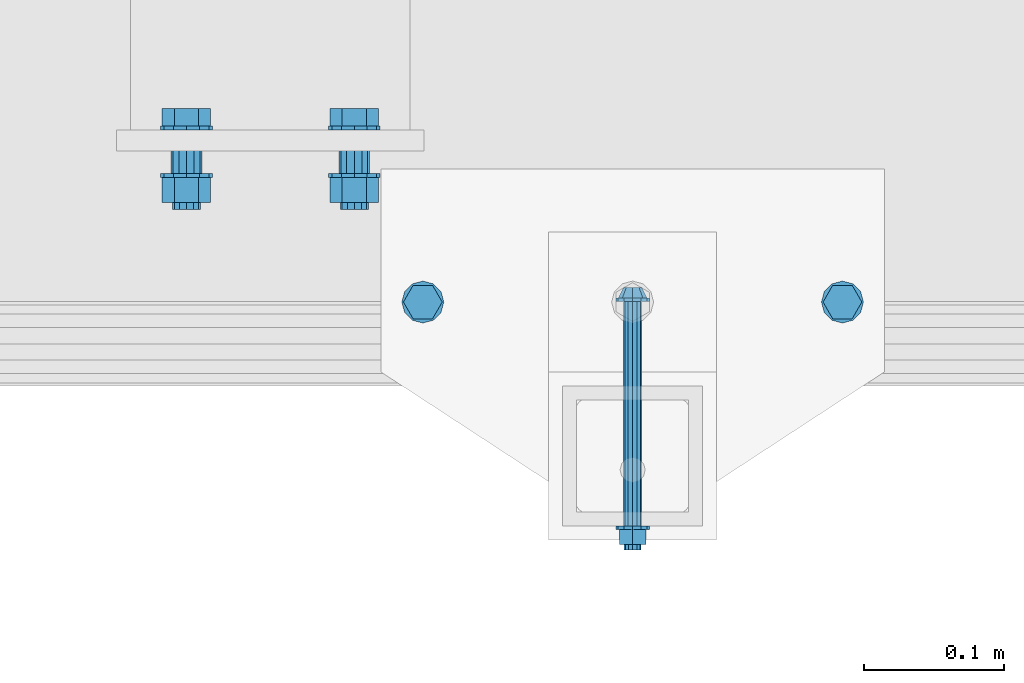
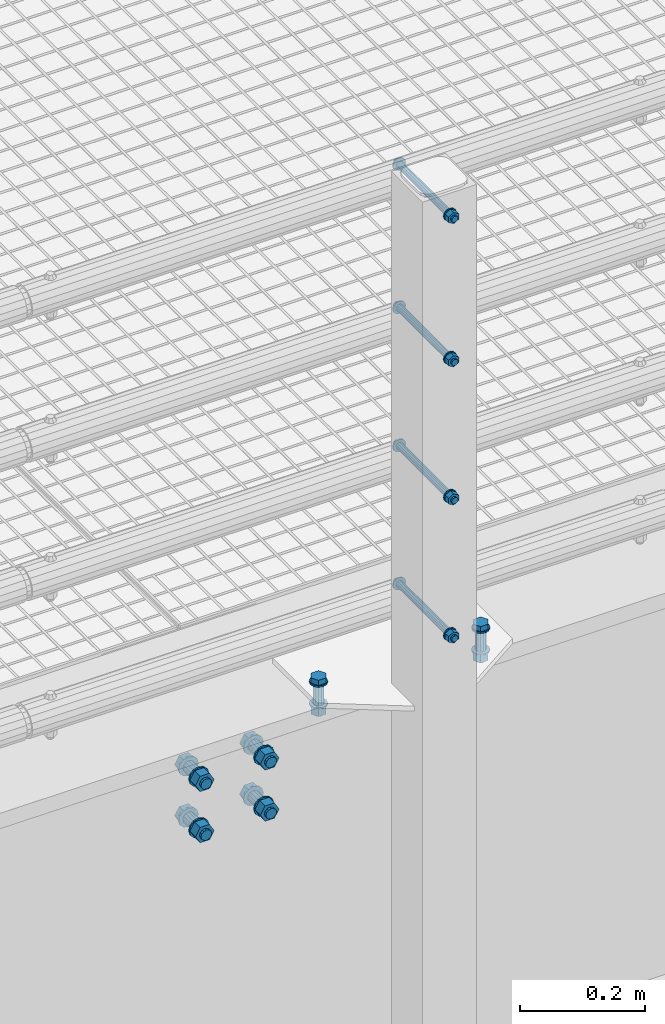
# One storey, part 25 of 1530: 6 mechanical fasteners.
"""IFC2X3 building model written with IfcOpenShell, lengths in millimetres."""

from ifc_helpers import new_model, si_unit, frame, origin_with_axes, place, context, subcontext, project, spatial, faceted_brep, source, transform, mapped, material, type_object, element, save


model = new_model("IFC2X3")

# Units and contexts
model_context = context("Model", 3, precision=1e-05, world=origin_with_axes())
body_context = subcontext(model_context, "Body", "Model", "MODEL_VIEW")
ifc_project = project(units=[si_unit("LENGTHUNIT", "METRE", prefix="MILLI"), si_unit("AREAUNIT", "SQUARE_METRE"), si_unit("VOLUMEUNIT", "CUBIC_METRE"), si_unit("MASSUNIT", "GRAM", prefix="KILO"), si_unit("TIMEUNIT", "SECOND"), si_unit("PLANEANGLEUNIT", "RADIAN"), si_unit("SOLIDANGLEUNIT", "STERADIAN"), si_unit("THERMODYNAMICTEMPERATUREUNIT", "DEGREE_CELSIUS"), si_unit("LUMINOUSINTENSITYUNIT", "LUMEN")], contexts=[model_context])

# Site, building, storey
site_placement = place(None, origin_with_axes())
site = spatial("IfcSite", under=ifc_project, at=site_placement, Name="Brattvåg", CompositionType="ELEMENT")
building_placement = place(site_placement, origin_with_axes())
building = spatial("IfcBuilding", under=site, at=building_placement, Name="Undefined", CompositionType="ELEMENT")
storey_placement = place(building_placement, origin_with_axes())
storey = spatial("IfcBuildingStorey", under=building, at=storey_placement, Name="Undefined", CompositionType="ELEMENT", Elevation=0.0)

# Mechanical fasteners
ifc_material = material(Name="8")
mechanical_fastener_type = type_object("IfcMechanicalFastenerType", Name="Bolt assembly")
shared_shape_1 = source(origin_with_axes(), body_context, "Body", "Brep", [
    faceted_brep([(6.49435320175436, -9.99984019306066, 0.0), (4.59220118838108, -9.99984019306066, 4.59220118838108), (3.97664443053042e-16, -9.99984019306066, 6.49435320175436), (-4.59220118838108, -9.99984019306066, 4.59220118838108), (-6.49435320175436, -9.99984019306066, 7.95328886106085e-16), (-4.59220118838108, -9.99984019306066, -4.59220118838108), (-1.19299332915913e-15, -9.99984019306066, -6.49435320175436), (4.59220118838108, -9.99984019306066, -4.59220118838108), (7.34846922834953, -2.49984019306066, -7.34846922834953), (-1.90903542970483e-15, -2.49984019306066, -10.3923048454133), (-7.34846922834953, -2.49984019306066, -7.34846922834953), (-10.3923048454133, -2.49984019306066, 1.27269028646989e-15), (-7.34846922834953, -2.49984019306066, 7.34846922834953), (6.36345143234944e-16, -2.49984019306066, 10.3923048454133), (7.34846922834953, -2.49984019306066, 7.34846922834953), (10.3923048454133, -2.49984019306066, 0.0), (6.0, -2.49984019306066, 0.0), (5.19615242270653, -2.49984019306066, 3.00000000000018), (2.99999999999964, -2.49984019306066, 5.19615242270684), (-6.21801588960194e-13, -2.49984019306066, 6.0), (-3.00000000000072, -2.49984019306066, 5.19615242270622), (-5.19615242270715, -2.49984019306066, 2.9999999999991), (-6.0, -2.49984019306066, -1.24360317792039e-12), (-5.19615242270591, -2.49984019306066, -3.00000000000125), (-2.99999999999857, -2.49984019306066, -5.19615242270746), (1.85874342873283e-12, -2.49984019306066, -6.0), (3.00000000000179, -2.49984019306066, -5.1961524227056), (5.19615242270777, -2.49984019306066, -2.99999999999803), (5.19615242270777, 177.500159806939, -2.99999999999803), (3.00000000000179, 177.500159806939, -5.1961524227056), (1.85874342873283e-12, 177.500159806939, -6.0), (-2.99999999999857, 177.500159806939, -5.19615242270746), (-5.19615242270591, 177.500159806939, -3.00000000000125), (-6.0, 177.500159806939, -1.24360317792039e-12), (-5.19615242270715, 177.500159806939, 2.9999999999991), (-3.00000000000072, 177.500159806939, 5.19615242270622), (-6.21801588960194e-13, 177.500159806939, 6.0), (2.99999999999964, 177.500159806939, 5.19615242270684), (5.19615242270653, 177.500159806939, 3.00000000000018), (6.0, 177.500159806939, 0.0), (12.0, -2.49984019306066, 0.0), (10.3923048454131, -2.49984019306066, 6.00000000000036), (5.99999999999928, -2.49984019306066, 10.3923048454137), (-1.24360317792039e-12, -2.49984019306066, 12.0), (-6.00000000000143, -2.49984019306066, 10.3923048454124), (-10.3923048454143, -2.49984019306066, 5.99999999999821), (-12.0, -2.49984019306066, -2.48720635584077e-12), (-10.3923048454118, -2.49984019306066, -6.00000000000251), (-5.99999999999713, -2.49984019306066, -10.3923048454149), (3.71748685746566e-12, -2.49984019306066, -12.0), (6.00000000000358, -2.49984019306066, -10.3923048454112), (10.3923048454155, -2.49984019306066, -5.99999999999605), (10.3923048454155, 0.000159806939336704, -5.99999999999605), (6.00000000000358, 0.000159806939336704, -10.3923048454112), (3.71748685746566e-12, 0.000159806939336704, -12.0), (-5.99999999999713, 0.000159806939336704, -10.3923048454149), (-10.3923048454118, 0.000159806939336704, -6.00000000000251), (-12.0, 0.000159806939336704, -2.48720635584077e-12), (-10.3923048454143, 0.000159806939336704, 5.99999999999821), (-6.00000000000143, 0.000159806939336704, 10.3923048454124), (-1.24360317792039e-12, 0.000159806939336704, 12.0), (5.99999999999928, 0.000159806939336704, 10.3923048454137), (10.3923048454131, 0.000159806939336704, 6.00000000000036), (12.0, 0.000159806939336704, 0.0), (12.0, 160.299998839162, 0.0), (10.3923048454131, 160.299998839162, 6.00000000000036), (5.99999999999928, 160.299998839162, 10.3923048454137), (-1.24360317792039e-12, 160.299998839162, 12.0), (-6.00000000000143, 160.299998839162, 10.3923048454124), (-10.3923048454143, 160.299998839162, 5.99999999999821), (-12.0, 160.299998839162, -2.48720635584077e-12), (-10.3923048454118, 160.299998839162, -6.00000000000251), (-5.99999999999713, 160.299998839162, -10.3923048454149), (3.71748685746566e-12, 160.299998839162, -12.0), (6.00000000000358, 160.299998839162, -10.3923048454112), (10.3923048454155, 160.299998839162, -5.99999999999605), (10.3923048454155, 162.799998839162, -5.99999999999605), (6.00000000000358, 162.799998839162, -10.3923048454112), (3.71748685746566e-12, 162.799998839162, -12.0), (-5.99999999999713, 162.799998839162, -10.3923048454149), (-10.3923048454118, 162.799998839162, -6.00000000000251), (-12.0, 162.799998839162, -2.48720635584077e-12), (-10.3923048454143, 162.799998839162, 5.99999999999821), (-6.00000000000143, 162.799998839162, 10.3923048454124), (-1.24360317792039e-12, 162.799998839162, 12.0), (5.99999999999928, 162.799998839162, 10.3923048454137), (10.3923048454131, 162.799998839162, 6.00000000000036), (12.0, 162.799998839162, 0.0), (10.9696551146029, 162.799998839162, 0.0), (5.48482755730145, 162.799998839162, 9.5), (-5.48482755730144, 162.799998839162, 9.5), (-10.9696551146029, 162.799998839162, 1.34339530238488e-15), (-5.48482755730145, 162.799998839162, -9.5), (5.48482755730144, 162.799998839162, -9.5), (5.48482755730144, 173.599999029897, -9.5), (-5.48482755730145, 173.599999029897, -9.5), (-10.9696551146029, 173.599999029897, 1.34339530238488e-15), (-5.48482755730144, 173.599999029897, 9.5), (5.48482755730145, 173.599999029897, 9.5), (10.9696551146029, 173.599999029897, 0.0)], [[[0, 1, 2, 3, 4, 5, 6, 7]], [[8, 9, 10, 11, 12, 13, 14, 15]], [[0, 15, 14, 1]], [[1, 14, 13, 2]], [[2, 13, 12, 3]], [[3, 12, 11, 4]], [[4, 11, 10, 5]], [[5, 10, 9, 6]], [[6, 9, 8, 7]], [[7, 8, 15, 0]], [[16, 17, 18, 19, 20, 21, 22, 23, 24, 25, 26, 27]], [[28, 29, 30, 31, 32, 33, 34, 35, 36, 37, 38, 39]], [[16, 39, 38, 17]], [[17, 38, 37, 18]], [[18, 37, 36, 19]], [[19, 36, 35, 20]], [[20, 35, 34, 21]], [[21, 34, 33, 22]], [[22, 33, 32, 23]], [[23, 32, 31, 24]], [[24, 31, 30, 25]], [[25, 30, 29, 26]], [[26, 29, 28, 27]], [[27, 28, 39, 16]], [[40, 41, 42, 43, 44, 45, 46, 47, 48, 49, 50, 51]], [[52, 53, 54, 55, 56, 57, 58, 59, 60, 61, 62, 63]], [[40, 63, 62, 41]], [[41, 62, 61, 42]], [[42, 61, 60, 43]], [[43, 60, 59, 44]], [[44, 59, 58, 45]], [[45, 58, 57, 46]], [[46, 57, 56, 47]], [[47, 56, 55, 48]], [[48, 55, 54, 49]], [[49, 54, 53, 50]], [[50, 53, 52, 51]], [[51, 52, 63, 40]], [[64, 65, 66, 67, 68, 69, 70, 71, 72, 73, 74, 75]], [[76, 77, 78, 79, 80, 81, 82, 83, 84, 85, 86, 87]], [[64, 87, 86, 65]], [[65, 86, 85, 66]], [[66, 85, 84, 67]], [[67, 84, 83, 68]], [[68, 83, 82, 69]], [[69, 82, 81, 70]], [[70, 81, 80, 71]], [[71, 80, 79, 72]], [[72, 79, 78, 73]], [[73, 78, 77, 74]], [[74, 77, 76, 75]], [[75, 76, 87, 64]], [[88, 89, 90, 91, 92, 93]], [[94, 95, 96, 97, 98, 99]], [[88, 99, 98, 89]], [[89, 98, 97, 90]], [[90, 97, 96, 91]], [[91, 96, 95, 92]], [[92, 95, 94, 93]], [[93, 94, 99, 88]]]),
    faceted_brep([(6.5, 0.100159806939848, 0.0), (5.62916512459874, 0.100159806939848, 3.25000000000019), (3.24999999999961, 0.100159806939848, 5.62916512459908), (-6.7361838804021e-13, 0.100159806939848, 6.5), (-3.25000000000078, 0.100159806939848, 5.6291651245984), (-5.62916512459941, 0.100159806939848, 3.24999999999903), (-6.5, 0.100159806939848, -1.34723677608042e-12), (-5.62916512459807, 0.100159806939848, -3.25000000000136), (-3.24999999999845, 0.100159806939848, -5.62916512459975), (2.01363871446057e-12, 0.100159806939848, -6.5), (3.25000000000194, 0.100159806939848, -5.62916512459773), (5.62916512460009, 0.100159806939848, -3.24999999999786), (5.62916512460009, 60.4001552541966, -3.24999999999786), (3.25000000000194, 60.4001552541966, -5.62916512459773), (2.01363871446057e-12, 60.4001552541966, -6.5), (-3.24999999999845, 60.4001552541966, -5.62916512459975), (-5.62916512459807, 60.4001552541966, -3.25000000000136), (-6.5, 60.4001552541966, -1.34723677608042e-12), (-5.62916512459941, 60.4001552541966, 3.24999999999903), (-3.25000000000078, 60.4001552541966, 5.6291651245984), (-6.7361838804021e-13, 60.4001552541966, 6.5), (3.24999999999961, 60.4001552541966, 5.62916512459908), (5.62916512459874, 60.4001552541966, 3.25000000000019), (6.5, 60.4001552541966, 0.0), (6.5, 60.1999988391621, 0.0), (5.62916512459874, 60.1999988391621, 3.25000000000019), (3.24999999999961, 60.1999988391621, 5.62916512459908), (-6.7361838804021e-13, 60.1999988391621, 6.5), (-3.25000000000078, 60.1999988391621, 5.6291651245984), (-5.62916512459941, 60.1999988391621, 3.24999999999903), (-6.5, 60.1999988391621, -1.34723677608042e-12), (-5.62916512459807, 60.1999988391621, -3.25000000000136), (-3.24999999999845, 60.1999988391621, -5.62916512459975), (2.01363871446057e-12, 60.1999988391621, -6.5), (3.25000000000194, 60.1999988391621, -5.62916512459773), (5.62916512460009, 60.1999988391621, -3.24999999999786), (5.62916512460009, 160.299998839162, -3.24999999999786), (3.25000000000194, 160.299998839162, -5.62916512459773), (2.01363871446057e-12, 160.299998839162, -6.5), (-3.24999999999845, 160.299998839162, -5.62916512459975), (-5.62916512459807, 160.299998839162, -3.25000000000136), (-6.5, 160.299998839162, -1.34723677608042e-12), (-5.62916512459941, 160.299998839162, 3.24999999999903), (-3.25000000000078, 160.299998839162, 5.6291651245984), (-6.7361838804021e-13, 160.299998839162, 6.5), (3.24999999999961, 160.299998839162, 5.62916512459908), (5.62916512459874, 160.299998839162, 3.25000000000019), (6.5, 160.299998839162, 0.0)], [[[0, 1, 2, 3, 4, 5, 6, 7, 8, 9, 10, 11]], [[12, 13, 14, 15, 16, 17, 18, 19, 20, 21, 22, 23]], [[0, 23, 22, 1]], [[1, 22, 21, 2]], [[2, 21, 20, 3]], [[3, 20, 19, 4]], [[4, 19, 18, 5]], [[5, 18, 17, 6]], [[6, 17, 16, 7]], [[7, 16, 15, 8]], [[8, 15, 14, 9]], [[9, 14, 13, 10]], [[10, 13, 12, 11]], [[11, 12, 23, 0]], [[24, 25, 26, 27, 28, 29, 30, 31, 32, 33, 34, 35]], [[36, 37, 38, 39, 40, 41, 42, 43, 44, 45, 46, 47]], [[24, 47, 46, 25]], [[25, 46, 45, 26]], [[26, 45, 44, 27]], [[27, 44, 43, 28]], [[28, 43, 42, 29]], [[29, 42, 41, 30]], [[30, 41, 40, 31]], [[31, 40, 39, 32]], [[32, 39, 38, 33]], [[33, 38, 37, 34]], [[34, 37, 36, 35]], [[35, 36, 47, 24]]]),
])
for number, where, z_axis, x_axis, name in (
    (1, (14844.9999999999, -99.6997226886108, 149.550000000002), (-1.0, 1.99999855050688e-09, 0.0), (0.0, 0.0, -1.0), "Bolt assembly"),
    (2, (14844.9999999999, -99.6997226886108, 419.550000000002), (-1.0, 1.99999855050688e-09, 0.0), (0.0, 0.0, -1.0), "Bolt assembly"),
    (3, (14844.9999999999, -99.6997226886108, 689.550000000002), (-1.0, 1.99999855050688e-09, 0.0), (0.0, 0.0, -1.0), "Bolt assembly"),
    (4, (14844.9999999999, -99.6997226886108, 969.550000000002), (-1.0, 1.99999855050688e-09, 0.0), (0.0, 0.0, -1.0), "Bolt assembly"),
):
    element("IfcMechanicalFastener", number, at=place(storey_placement, frame(where, z_axis=z_axis, x_axis=x_axis)), inside=storey, type_object=mechanical_fastener_type, material=ifc_material, Name=name, NominalDiameter=12.0, NominalLength=180.0, context=body_context, shape_type="MappedRepresentation", body=[
        mapped(shared_shape_1, transform((0.0, 0.0, 0.0))),
    ])
shared_shape_2 = source(origin_with_axes(), body_context, "Body", "Brep", [
    faceted_brep([(13.856406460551, -13.0, 0.0), (6.92820323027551, -13.0, 12.0), (-6.92820323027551, -13.0, 12.0), (-13.856406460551, -13.0, 1.69692038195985e-15), (-6.92820323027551, -13.0, -12.0), (6.9282032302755, -13.0, -12.0), (6.9282032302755, -3.0, -12.0), (-6.92820323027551, -3.0, -12.0), (-13.856406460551, -3.0, 1.69692038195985e-15), (-6.92820323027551, -3.0, 12.0), (6.92820323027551, -3.0, 12.0), (13.856406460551, -3.0, 0.0), (8.0, -3.0, 0.0), (6.92820323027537, -3.0, 4.00000000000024), (3.99999999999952, -3.0, 6.92820323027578), (-8.29068785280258e-13, -3.0, 8.0), (-4.00000000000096, -3.0, 6.92820323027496), (-6.9282032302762, -3.0, 3.99999999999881), (-8.0, -3.0, -1.65813757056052e-12), (-6.92820323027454, -3.0, -4.00000000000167), (-3.99999999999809, -3.0, -6.92820323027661), (2.47832457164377e-12, -3.0, -8.0), (4.00000000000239, -3.0, -6.92820323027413), (6.92820323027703, -3.0, -3.99999999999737), (6.92820323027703, 62.0000000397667, -3.99999999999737), (4.00000000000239, 62.0000000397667, -6.92820323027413), (2.47832457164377e-12, 62.0000000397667, -8.0), (-3.99999999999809, 62.0000000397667, -6.92820323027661), (-6.92820323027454, 62.0000000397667, -4.00000000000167), (-8.0, 62.0000000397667, -1.65813757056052e-12), (-6.9282032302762, 62.0000000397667, 3.99999999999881), (-4.00000000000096, 62.0000000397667, 6.92820323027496), (-8.29068785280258e-13, 62.0000000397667, 8.0), (3.99999999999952, 62.0000000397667, 6.92820323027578), (6.92820323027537, 62.0000000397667, 4.00000000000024), (8.0, 62.0000000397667, 0.0), (15.0, -3.0, 0.0), (12.9903810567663, -3.0, 7.50000000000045), (7.4999999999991, -3.0, 12.9903810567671), (-1.55450397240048e-12, -3.0, 15.0), (-7.50000000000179, -3.0, 12.9903810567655), (-12.9903810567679, -3.0, 7.49999999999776), (-15.0, -3.0, -3.10900794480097e-12), (-12.9903810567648, -3.0, -7.50000000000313), (-7.49999999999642, -3.0, -12.9903810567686), (4.64685857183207e-12, -3.0, -15.0), (7.50000000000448, -3.0, -12.990381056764), (12.9903810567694, -3.0, -7.49999999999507), (12.9903810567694, 0.0, -7.49999999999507), (7.50000000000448, 0.0, -12.990381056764), (0.0, 0.0, -15.0), (-7.49999999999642, 0.0, -12.9903810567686), (-12.9903810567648, 0.0, -7.50000000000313), (-15.0, 0.0, -3.10900794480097e-12), (-12.9903810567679, 0.0, 7.49999999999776), (-7.50000000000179, 0.0, 12.9903810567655), (0.0, 0.0, 15.0), (7.4999999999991, 0.0, 12.9903810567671), (12.9903810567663, 0.0, 7.50000000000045), (15.0, 0.0, 0.0), (15.0, 39.9997390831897, 0.0), (12.9903810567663, 39.9997390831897, 7.50000000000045), (7.4999999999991, 39.9997390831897, 12.9903810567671), (-1.55450397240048e-12, 39.9997390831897, 15.0), (-7.50000000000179, 39.9997390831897, 12.9903810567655), (-12.9903810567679, 39.9997390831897, 7.49999999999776), (-15.0, 39.9997390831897, -3.10900794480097e-12), (-12.9903810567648, 39.9997390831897, -7.50000000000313), (-7.49999999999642, 39.9997390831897, -12.9903810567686), (4.64685857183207e-12, 39.9997390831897, -15.0), (7.50000000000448, 39.9997390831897, -12.990381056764), (12.9903810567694, 39.9997390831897, -7.49999999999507), (12.9903810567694, 42.9997390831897, -7.49999999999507), (7.50000000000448, 42.9997390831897, -12.990381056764), (4.64685857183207e-12, 42.9997390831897, -15.0), (-7.49999999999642, 42.9997390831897, -12.9903810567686), (-12.9903810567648, 42.9997390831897, -7.50000000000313), (-15.0, 42.9997390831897, -3.10900794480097e-12), (-12.9903810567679, 42.9997390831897, 7.49999999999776), (-7.50000000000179, 42.9997390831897, 12.9903810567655), (-1.55450397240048e-12, 42.9997390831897, 15.0), (7.4999999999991, 42.9997390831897, 12.9903810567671), (12.9903810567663, 42.9997390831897, 7.50000000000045), (15.0, 42.9997390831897, 0.0), (13.856406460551, 42.9997390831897, 0.0), (6.92820323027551, 42.9997390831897, 12.0), (-6.92820323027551, 42.9997390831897, 12.0), (-13.856406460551, 42.9997390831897, 1.69692038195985e-15), (-6.92820323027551, 42.9997390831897, -12.0), (6.9282032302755, 42.9997390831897, -12.0), (6.9282032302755, 57.7997392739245, -12.0), (-6.92820323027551, 57.7997392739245, -12.0), (-13.856406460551, 57.7997392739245, 1.69692038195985e-15), (-6.92820323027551, 57.7997392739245, 12.0), (6.92820323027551, 57.7997392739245, 12.0), (13.856406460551, 57.7997392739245, 0.0)], [[[0, 1, 2, 3, 4, 5]], [[6, 7, 8, 9, 10, 11]], [[0, 11, 10, 1]], [[1, 10, 9, 2]], [[2, 9, 8, 3]], [[3, 8, 7, 4]], [[4, 7, 6, 5]], [[5, 6, 11, 0]], [[12, 13, 14, 15, 16, 17, 18, 19, 20, 21, 22, 23]], [[24, 25, 26, 27, 28, 29, 30, 31, 32, 33, 34, 35]], [[12, 35, 34, 13]], [[13, 34, 33, 14]], [[14, 33, 32, 15]], [[15, 32, 31, 16]], [[16, 31, 30, 17]], [[17, 30, 29, 18]], [[18, 29, 28, 19]], [[19, 28, 27, 20]], [[20, 27, 26, 21]], [[21, 26, 25, 22]], [[22, 25, 24, 23]], [[23, 24, 35, 12]], [[36, 37, 38, 39, 40, 41, 42, 43, 44, 45, 46, 47]], [[48, 49, 50, 51, 52, 53, 54, 55, 56, 57, 58, 59]], [[36, 59, 58, 37]], [[37, 58, 57, 38]], [[38, 57, 56, 39]], [[39, 56, 55, 40]], [[40, 55, 54, 41]], [[41, 54, 53, 42]], [[42, 53, 52, 43]], [[43, 52, 51, 44]], [[44, 51, 50, 45]], [[45, 50, 49, 46]], [[46, 49, 48, 47]], [[47, 48, 59, 36]], [[60, 61, 62, 63, 64, 65, 66, 67, 68, 69, 70, 71]], [[72, 73, 74, 75, 76, 77, 78, 79, 80, 81, 82, 83]], [[60, 83, 82, 61]], [[61, 82, 81, 62]], [[62, 81, 80, 63]], [[63, 80, 79, 64]], [[64, 79, 78, 65]], [[65, 78, 77, 66]], [[66, 77, 76, 67]], [[67, 76, 75, 68]], [[68, 75, 74, 69]], [[69, 74, 73, 70]], [[70, 73, 72, 71]], [[71, 72, 83, 60]], [[84, 85, 86, 87, 88, 89]], [[90, 91, 92, 93, 94, 95]], [[84, 95, 94, 85]], [[85, 94, 93, 86]], [[86, 93, 92, 87]], [[87, 92, 91, 88]], [[88, 91, 90, 89]], [[89, 90, 95, 84]]]),
    faceted_brep([(9.0, 0.1, 0.0), (7.79422863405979, 0.1, 4.50000000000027), (4.49999999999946, 0.1, 7.79422863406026), (-9.3270238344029e-13, 0.1, 9.0), (-4.50000000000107, 0.1, 7.79422863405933), (-7.79422863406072, 0.1, 4.49999999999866), (-9.0, 0.1, -1.86540476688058e-12), (-7.79422863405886, 0.1, -4.50000000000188), (-4.49999999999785, 0.1, -7.79422863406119), (2.78811514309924e-12, 0.1, -9.0), (4.50000000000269, 0.1, -7.7942286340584), (7.79422863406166, 0.1, -4.49999999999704), (7.79422863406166, 10.1, -4.49999999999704), (4.50000000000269, 10.1, -7.7942286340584), (2.78811514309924e-12, 10.1, -9.0), (-4.49999999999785, 10.1, -7.79422863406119), (-7.79422863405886, 10.1, -4.50000000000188), (-9.0, 10.1, -1.86540476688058e-12), (-7.79422863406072, 10.1, 4.49999999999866), (-4.50000000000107, 10.1, 7.79422863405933), (-9.3270238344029e-13, 10.1, 9.0), (4.49999999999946, 10.1, 7.79422863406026), (7.79422863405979, 10.1, 4.50000000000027), (9.0, 10.1, 0.0), (9.0, 9.8997390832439, 0.0), (7.79422863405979, 9.8997390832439, 4.50000000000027), (4.49999999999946, 9.8997390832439, 7.79422863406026), (-9.3270238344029e-13, 9.8997390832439, 9.0), (-4.50000000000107, 9.8997390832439, 7.79422863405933), (-7.79422863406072, 9.8997390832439, 4.49999999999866), (-9.0, 9.8997390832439, -1.86540476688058e-12), (-7.79422863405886, 9.8997390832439, -4.50000000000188), (-4.49999999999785, 9.8997390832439, -7.79422863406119), (2.78811514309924e-12, 9.8997390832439, -9.0), (4.50000000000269, 9.8997390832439, -7.7942286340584), (7.79422863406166, 9.8997390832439, -4.49999999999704), (7.79422863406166, 39.9997390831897, -4.49999999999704), (4.50000000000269, 39.9997390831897, -7.7942286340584), (2.78811514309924e-12, 39.9997390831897, -9.0), (-4.49999999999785, 39.9997390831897, -7.79422863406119), (-7.79422863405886, 39.9997390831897, -4.50000000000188), (-9.0, 39.9997390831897, -1.86540476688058e-12), (-7.79422863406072, 39.9997390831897, 4.49999999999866), (-4.50000000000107, 39.9997390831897, 7.79422863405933), (-9.3270238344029e-13, 39.9997390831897, 9.0), (4.49999999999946, 39.9997390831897, 7.79422863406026), (7.79422863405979, 39.9997390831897, 4.50000000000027), (9.0, 39.9997390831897, 0.0)], [[[0, 1, 2, 3, 4, 5, 6, 7, 8, 9, 10, 11]], [[12, 13, 14, 15, 16, 17, 18, 19, 20, 21, 22, 23]], [[0, 23, 22, 1]], [[1, 22, 21, 2]], [[2, 21, 20, 3]], [[3, 20, 19, 4]], [[4, 19, 18, 5]], [[5, 18, 17, 6]], [[6, 17, 16, 7]], [[7, 16, 15, 8]], [[8, 15, 14, 9]], [[9, 14, 13, 10]], [[10, 13, 12, 11]], [[11, 12, 23, 0]], [[24, 25, 26, 27, 28, 29, 30, 31, 32, 33, 34, 35]], [[36, 37, 38, 39, 40, 41, 42, 43, 44, 45, 46, 47]], [[24, 47, 46, 25]], [[25, 46, 45, 26]], [[26, 45, 44, 27]], [[27, 44, 43, 28]], [[28, 43, 42, 29]], [[29, 42, 41, 30]], [[30, 41, 40, 31]], [[31, 40, 39, 32]], [[32, 39, 38, 33]], [[33, 38, 37, 34]], [[34, 37, 36, 35]], [[35, 36, 47, 24]]]),
])
mechanical_fastener_1_placement = place(storey_placement, frame((14695.0008086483, -99.9996071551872, 9.99973908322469), z_axis=(0.0, 1.0, 0.0), x_axis=(1.0, 0.0, 0.0)))
element("IfcMechanicalFastener", 5, at=mechanical_fastener_1_placement, inside=storey, type_object=mechanical_fastener_type, material=ifc_material, Name="Bolt assembly", NominalDiameter=16.0, NominalLength=65.0, context=body_context, shape_type="MappedRepresentation", body=[
    mapped(shared_shape_2, transform((0.0, 0.0, 0.0))),
    mapped(shared_shape_2, transform((300.0, 0.0, 0.0))),
])
shared_shape_3 = source(origin_with_axes(), body_context, "Body", "Brep", [
    faceted_brep([(17.3205080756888, -15.5000000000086, 0.0), (8.66025403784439, -15.5000000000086, 15.0), (-8.66025403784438, -15.5000000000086, 15.0), (-17.3205080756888, -15.5000000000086, 2.12115047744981e-15), (-8.66025403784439, -15.5000000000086, -15.0), (8.66025403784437, -15.5000000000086, -15.0), (8.66025403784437, -3.00000000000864, -15.0), (-8.66025403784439, -3.00000000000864, -15.0), (-17.3205080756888, -3.00000000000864, 2.12115047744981e-15), (-8.66025403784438, -3.00000000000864, 15.0), (8.66025403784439, -3.00000000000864, 15.0), (17.3205080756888, -3.00000000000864, 0.0), (10.0, -3.00000000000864, 0.0), (8.66025403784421, -3.00000000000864, 5.0000000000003), (4.9999999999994, -3.00000000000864, 8.66025403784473), (-1.03633598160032e-12, -3.00000000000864, 10.0), (-5.00000000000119, -3.00000000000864, 8.6602540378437), (-8.66025403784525, -3.00000000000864, 4.99999999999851), (-10.0, -3.00000000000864, -2.07267196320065e-12), (-8.66025403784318, -3.00000000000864, -5.00000000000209), (-4.99999999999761, -3.00000000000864, -8.66025403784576), (3.09790571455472e-12, -3.00000000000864, -10.0), (5.00000000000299, -3.00000000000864, -8.66025403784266), (8.66025403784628, -3.00000000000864, -4.99999999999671), (8.66025403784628, 57.0, -4.99999999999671), (5.00000000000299, 57.0, -8.66025403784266), (3.09790571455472e-12, 57.0, -10.0), (-4.99999999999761, 57.0, -8.66025403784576), (-8.66025403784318, 57.0, -5.00000000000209), (-10.0, 57.0, -2.07267196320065e-12), (-8.66025403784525, 57.0, 4.99999999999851), (-5.00000000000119, 57.0, 8.6602540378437), (-1.03633598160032e-12, 57.0, 10.0), (4.9999999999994, 57.0, 8.66025403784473), (8.66025403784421, 57.0, 5.0000000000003), (10.0, 57.0, 0.0), (18.5, -3.00000000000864, 0.0), (16.0214699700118, -3.00000000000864, 9.25000000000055), (9.2499999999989, -3.00000000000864, 16.0214699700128), (-1.9172215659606e-12, -3.00000000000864, 18.5), (-9.25000000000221, -3.00000000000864, 16.0214699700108), (-16.0214699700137, -3.00000000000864, 9.24999999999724), (-18.5, -3.00000000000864, -3.83444313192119e-12), (-16.0214699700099, -3.00000000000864, -9.25000000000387), (-9.24999999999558, -3.00000000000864, -16.0214699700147), (5.73112557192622e-12, -3.00000000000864, -18.5), (9.25000000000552, -3.00000000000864, -16.0214699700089), (16.0214699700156, -3.00000000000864, -9.24999999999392), (16.0214699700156, -8.64019966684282e-12, -9.24999999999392), (9.25000000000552, -8.64019966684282e-12, -16.0214699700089), (5.73112557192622e-12, -8.64019966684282e-12, -18.5), (-9.24999999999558, -8.64019966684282e-12, -16.0214699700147), (-16.0214699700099, -8.64019966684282e-12, -9.25000000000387), (-18.5, -8.64019966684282e-12, -3.83444313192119e-12), (-16.0214699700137, -8.64019966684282e-12, 9.24999999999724), (-9.25000000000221, -8.64019966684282e-12, 16.0214699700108), (-1.9172215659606e-12, -8.64019966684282e-12, 18.5), (9.2499999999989, -8.64019966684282e-12, 16.0214699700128), (16.0214699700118, -8.64019966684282e-12, 9.25000000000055), (18.5, -8.64019966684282e-12, 0.0), (18.5, 31.0015563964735, 0.0), (16.0214699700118, 31.0015563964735, 9.25000000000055), (9.2499999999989, 31.0015563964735, 16.0214699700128), (-1.9172215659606e-12, 31.0015563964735, 18.5), (-9.25000000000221, 31.0015563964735, 16.0214699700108), (-16.0214699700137, 31.0015563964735, 9.24999999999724), (-18.5, 31.0015563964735, -3.83444313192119e-12), (-16.0214699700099, 31.0015563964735, -9.25000000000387), (-9.24999999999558, 31.0015563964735, -16.0214699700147), (5.73112557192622e-12, 31.0015563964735, -18.5), (9.25000000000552, 31.0015563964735, -16.0214699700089), (16.0214699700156, 31.0015563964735, -9.24999999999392), (16.0214699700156, 34.0015563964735, -9.24999999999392), (9.25000000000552, 34.0015563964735, -16.0214699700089), (5.73112557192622e-12, 34.0015563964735, -18.5), (-9.24999999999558, 34.0015563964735, -16.0214699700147), (-16.0214699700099, 34.0015563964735, -9.25000000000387), (-18.5, 34.0015563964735, -3.83444313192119e-12), (-16.0214699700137, 34.0015563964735, 9.24999999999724), (-9.25000000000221, 34.0015563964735, 16.0214699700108), (-1.9172215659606e-12, 34.0015563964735, 18.5), (9.2499999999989, 34.0015563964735, 16.0214699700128), (16.0214699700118, 34.0015563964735, 9.25000000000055), (18.5, 34.0015563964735, 0.0), (17.3205080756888, 34.0015563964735, 0.0), (8.66025403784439, 34.0015563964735, 15.0), (-8.66025403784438, 34.0015563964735, 15.0), (-17.3205080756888, 34.0015563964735, 2.12115047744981e-15), (-8.66025403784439, 34.0015563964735, -15.0), (8.66025403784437, 34.0015563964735, -15.0), (8.66025403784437, 52.0015563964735, -15.0), (-8.66025403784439, 52.0015563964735, -15.0), (-17.3205080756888, 52.0015563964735, 2.12115047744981e-15), (-8.66025403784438, 52.0015563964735, 15.0), (8.66025403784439, 52.0015563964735, 15.0), (17.3205080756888, 52.0015563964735, 0.0)], [[[0, 1, 2, 3, 4, 5]], [[6, 7, 8, 9, 10, 11]], [[0, 11, 10, 1]], [[1, 10, 9, 2]], [[2, 9, 8, 3]], [[3, 8, 7, 4]], [[4, 7, 6, 5]], [[5, 6, 11, 0]], [[12, 13, 14, 15, 16, 17, 18, 19, 20, 21, 22, 23]], [[24, 25, 26, 27, 28, 29, 30, 31, 32, 33, 34, 35]], [[12, 35, 34, 13]], [[13, 34, 33, 14]], [[14, 33, 32, 15]], [[15, 32, 31, 16]], [[16, 31, 30, 17]], [[17, 30, 29, 18]], [[18, 29, 28, 19]], [[19, 28, 27, 20]], [[20, 27, 26, 21]], [[21, 26, 25, 22]], [[22, 25, 24, 23]], [[23, 24, 35, 12]], [[36, 37, 38, 39, 40, 41, 42, 43, 44, 45, 46, 47]], [[48, 49, 50, 51, 52, 53, 54, 55, 56, 57, 58, 59]], [[36, 59, 58, 37]], [[37, 58, 57, 38]], [[38, 57, 56, 39]], [[39, 56, 55, 40]], [[40, 55, 54, 41]], [[41, 54, 53, 42]], [[42, 53, 52, 43]], [[43, 52, 51, 44]], [[44, 51, 50, 45]], [[45, 50, 49, 46]], [[46, 49, 48, 47]], [[47, 48, 59, 36]], [[60, 61, 62, 63, 64, 65, 66, 67, 68, 69, 70, 71]], [[72, 73, 74, 75, 76, 77, 78, 79, 80, 81, 82, 83]], [[60, 83, 82, 61]], [[61, 82, 81, 62]], [[62, 81, 80, 63]], [[63, 80, 79, 64]], [[64, 79, 78, 65]], [[65, 78, 77, 66]], [[66, 77, 76, 67]], [[67, 76, 75, 68]], [[68, 75, 74, 69]], [[69, 74, 73, 70]], [[70, 73, 72, 71]], [[71, 72, 83, 60]], [[84, 85, 86, 87, 88, 89]], [[90, 91, 92, 93, 94, 95]], [[84, 95, 94, 85]], [[85, 94, 93, 86]], [[86, 93, 92, 87]], [[87, 92, 91, 88]], [[88, 91, 90, 89]], [[89, 90, 95, 84]]]),
    faceted_brep([(11.0, 0.1, 0.0), (9.52627944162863, 0.1, 5.50000000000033), (5.49999999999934, 0.1, 9.5262794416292), (-1.13996957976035e-12, 0.1, 11.0), (-5.50000000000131, 0.1, 9.52627944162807), (-9.52627944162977, 0.1, 5.49999999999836), (-11.0, 0.1, -2.27993915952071e-12), (-9.5262794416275, 0.1, -5.5000000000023), (-5.49999999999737, 0.1, -9.52627944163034), (3.40769628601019e-12, 0.1, -11.0), (5.50000000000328, 0.1, -9.52627944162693), (9.52627944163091, 0.1, -5.49999999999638), (9.52627944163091, 15.1, -5.49999999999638), (5.50000000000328, 15.1, -9.52627944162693), (3.40769628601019e-12, 15.1, -11.0), (-5.49999999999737, 15.1, -9.52627944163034), (-9.5262794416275, 15.1, -5.5000000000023), (-11.0, 15.1, -2.27993915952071e-12), (-9.52627944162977, 15.1, 5.49999999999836), (-5.50000000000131, 15.1, 9.52627944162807), (-1.13996957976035e-12, 15.1, 11.0), (5.49999999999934, 15.1, 9.5262794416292), (9.52627944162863, 15.1, 5.50000000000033), (11.0, 15.1, 0.0), (11.0, 14.9015563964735, 0.0), (9.52627944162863, 14.9015563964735, 5.50000000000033), (5.49999999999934, 14.9015563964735, 9.5262794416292), (-1.13996957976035e-12, 14.9015563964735, 11.0), (-5.50000000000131, 14.9015563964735, 9.52627944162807), (-9.52627944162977, 14.9015563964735, 5.49999999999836), (-11.0, 14.9015563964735, -2.27993915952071e-12), (-9.5262794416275, 14.9015563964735, -5.5000000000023), (-5.49999999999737, 14.9015563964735, -9.52627944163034), (3.40769628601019e-12, 14.9015563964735, -11.0), (5.50000000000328, 14.9015563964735, -9.52627944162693), (9.52627944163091, 14.9015563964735, -5.49999999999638), (9.52627944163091, 31.0015563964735, -5.49999999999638), (5.50000000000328, 31.0015563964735, -9.52627944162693), (3.40769628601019e-12, 31.0015563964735, -11.0), (-5.49999999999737, 31.0015563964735, -9.52627944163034), (-9.5262794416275, 31.0015563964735, -5.5000000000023), (-11.0, 31.0015563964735, -2.27993915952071e-12), (-9.52627944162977, 31.0015563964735, 5.49999999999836), (-5.50000000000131, 31.0015563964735, 9.52627944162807), (-1.13996957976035e-12, 31.0015563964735, 11.0), (5.49999999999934, 31.0015563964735, 9.5262794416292), (9.52627944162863, 31.0015563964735, 5.50000000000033), (11.0, 31.0015563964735, 0.0)], [[[0, 1, 2, 3, 4, 5, 6, 7, 8, 9, 10, 11]], [[12, 13, 14, 15, 16, 17, 18, 19, 20, 21, 22, 23]], [[0, 23, 22, 1]], [[1, 22, 21, 2]], [[2, 21, 20, 3]], [[3, 20, 19, 4]], [[4, 19, 18, 5]], [[5, 18, 17, 6]], [[6, 17, 16, 7]], [[7, 16, 15, 8]], [[8, 15, 14, 9]], [[9, 14, 13, 10]], [[10, 13, 12, 11]], [[11, 12, 23, 0]], [[24, 25, 26, 27, 28, 29, 30, 31, 32, 33, 34, 35]], [[36, 37, 38, 39, 40, 41, 42, 43, 44, 45, 46, 47]], [[24, 47, 46, 25]], [[25, 46, 45, 26]], [[26, 45, 44, 27]], [[27, 44, 43, 28]], [[28, 43, 42, 29]], [[29, 42, 41, 30]], [[30, 41, 40, 31]], [[31, 40, 39, 32]], [[32, 39, 38, 33]], [[33, 38, 37, 34]], [[34, 37, 36, 35]], [[35, 36, 47, 24]]]),
])
mechanical_fastener_2_placement = place(storey_placement, frame((14646.0019683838, 23.0015563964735, -219.998836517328), z_axis=(0.0, 0.0, 1.0), x_axis=(-1.0, 1.99999855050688e-09, 0.0)))
element("IfcMechanicalFastener", 6, at=mechanical_fastener_2_placement, inside=storey, type_object=mechanical_fastener_type, material=ifc_material, Name="Bolt assembly", NominalDiameter=20.0, NominalLength=60.0, context=body_context, shape_type="MappedRepresentation", body=[
    mapped(shared_shape_3, transform((0.0, 0.0, -50.0))),
    mapped(shared_shape_3, transform((120.0, 0.0, -50.0))),
    mapped(shared_shape_3, transform((0.0, 0.0, 50.0))),
    mapped(shared_shape_3, transform((120.0, 0.0, 50.0))),
])

save(model, "model.ifc")
